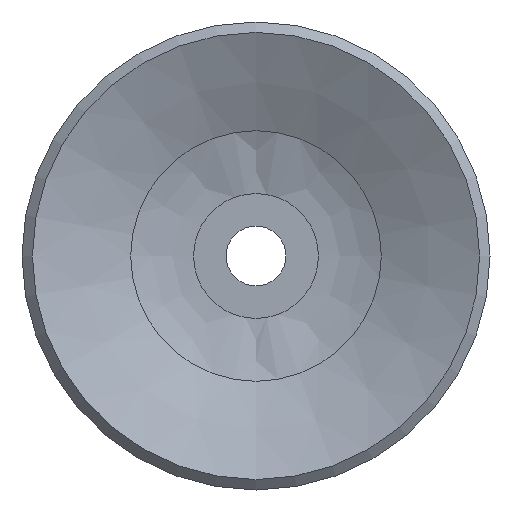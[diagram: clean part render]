
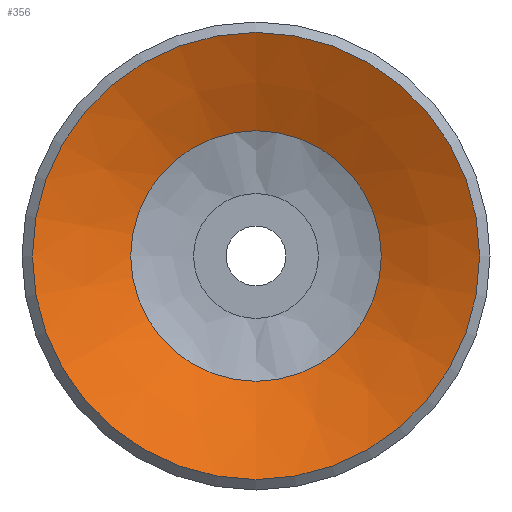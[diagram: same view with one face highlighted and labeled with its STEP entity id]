
A CAD part, front view. The second image highlights one B-rep face of the part: STEP entity #356.
In plain terms, the highlighted conical face has half-angle 65.056 degrees and reference radius 3.2 mm.
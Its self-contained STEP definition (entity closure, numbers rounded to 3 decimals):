
#356=ADVANCED_FACE('',(#558,#559),#560,.F.);
#558=FACE_BOUND('',#781,.T.);
#559=FACE_OUTER_BOUND('',#782,.T.);
#560=CONICAL_SURFACE('',#783,3.2,1.135);
#781=EDGE_LOOP('',(#1325));
#782=EDGE_LOOP('',(#1326));
#783=AXIS2_PLACEMENT_3D('',#1327,#1328,#1329);
#1325=ORIENTED_EDGE('',*,*,#1508,.T.);
#1326=ORIENTED_EDGE('',*,*,#1509,.T.);
#1327=CARTESIAN_POINT('',(0.0,7.896,0.0));
#1328=DIRECTION('',(-0.0,-1.0,0.));
#1329=DIRECTION('',(0.0,0.,-1.0));
#1508=EDGE_CURVE('',#1740,#1740,#1741,.T.);
#1509=EDGE_CURVE('',#1742,#1742,#1743,.T.);
#1740=VERTEX_POINT('',#2362);
#1741=CIRCLE('',#2363,4.203);
#1742=VERTEX_POINT('',#2364);
#1743=CIRCLE('',#2365,7.5);
#2362=CARTESIAN_POINT('',(0.0,7.43,-4.203));
#2363=AXIS2_PLACEMENT_3D('',#2587,#2588,#2589);
#2364=CARTESIAN_POINT('',(0.0,5.896,-7.5));
#2365=AXIS2_PLACEMENT_3D('',#2590,#2591,#2592);
#2587=CARTESIAN_POINT('',(0.0,7.43,0.0));
#2588=DIRECTION('',(0.0,1.0,0.));
#2589=DIRECTION('',(0.0,0.,-1.0));
#2590=CARTESIAN_POINT('',(0.0,5.896,0.0));
#2591=DIRECTION('',(0.0,-1.0,0.));
#2592=DIRECTION('',(0.0,0.,-1.0));
